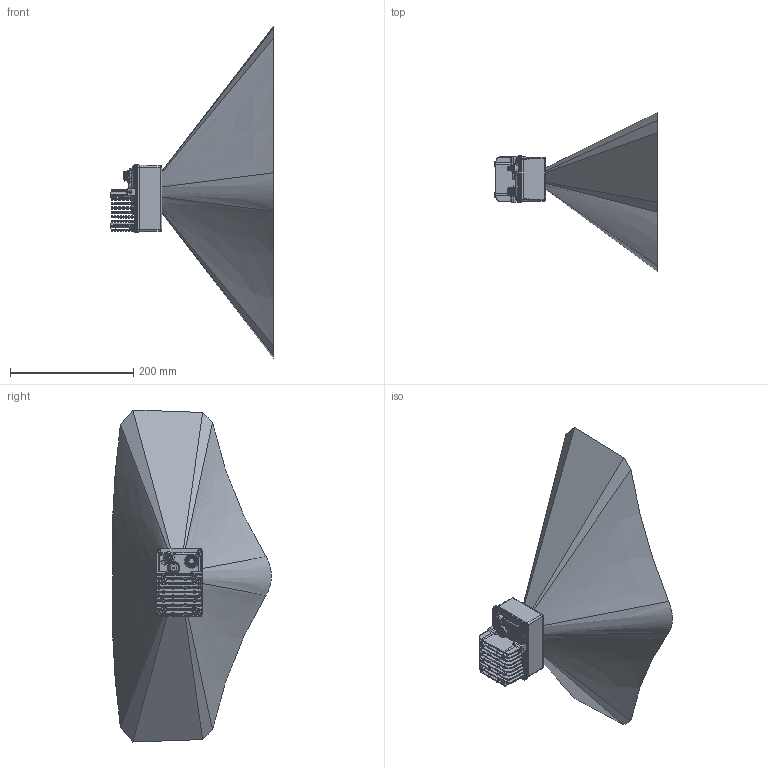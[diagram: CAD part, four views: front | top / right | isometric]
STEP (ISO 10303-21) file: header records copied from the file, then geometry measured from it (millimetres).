
FILE_DESCRIPTION(/* description */ (''),/* implementation_level */ '2;1');
FILE_NAME(/* name */ '10000443_ETR_C.stp',/* time_stamp */ '2023-03-09T09:45:56+01:00',/* author */ ('Menz'),/* organization */ (''),/* preprocessor_version */ 'ST-DEVELOPER v19.2',/* originating_system */ 'Autodesk Inventor 2023',/* authorisation */ '');
FILE_SCHEMA (('AUTOMOTIVE_DESIGN { 1 0 10303 214 3 1 1 }'));
Products named in the file (1): 10000443_simplified
Bounding box: 263.5 x 257.2 x 538 mm (x, y, z)
Volume: 7768668.7 mm3; surface area: 399569.8 mm2
Topology: 11 solids, 11 shells, 2421 faces, 6173 edges, 3692 vertices
Faces by surface type: cylinder 799, bspline 688, plane 368, torus 204, cone 198, sphere 164
Full cylindrical faces by diameter (mm): 0.9 x1, 3 x28, 3.242 x4, 4.7 x1, 4.978 x2, 5.3 x1, 6 x4, 6.5 x1, 7.3 x1, 8.25 x1, 9.8 x1, 10.2 x1, 10.517 x5, 10.9 x1, 12.425 x1, 13 x1, 13.5 x1, 14.4 x1, 20 x1
Entity records: 140954 total; most frequent: CARTESIAN_POINT 84322, ORIENTED_EDGE 12132, DIRECTION 10339, EDGE_CURVE 6066, AXIS2_PLACEMENT_3D 4364, VERTEX_POINT 3692, EDGE_LOOP 2488, CIRCLE 2440
